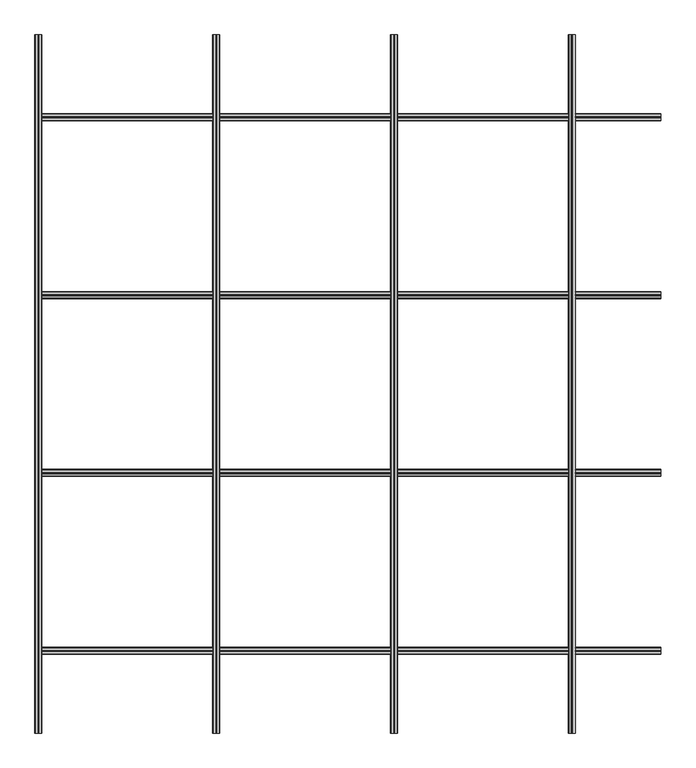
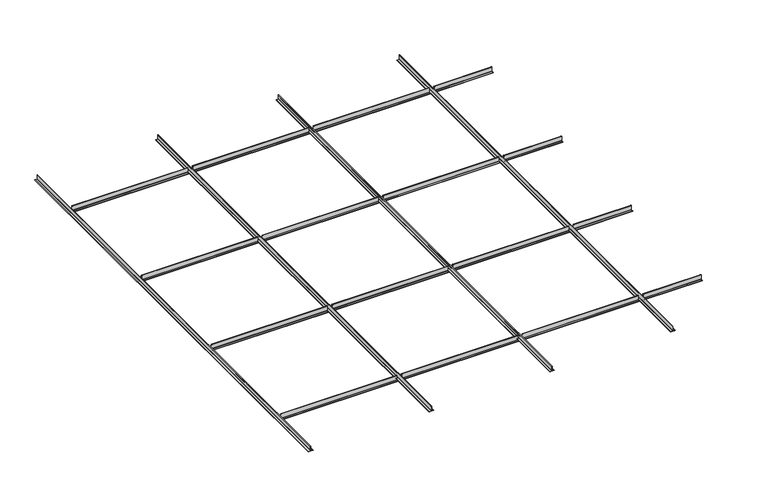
"""IFC4 building model written with IfcOpenShell, lengths in millimetres: proxy geometry, modelo_altus 1.3dm."""

from ifc_helpers import new_model, si_unit, point, frame, frame_2d, origin, place, context, project, spatial, polyline, circle_curve, trimmed, segment, composite_curve, outline, extrude, source, transform, mapped, element, save


def generic_models_ad41e831(model_context):
    return source(origin(), model_context, "Body", "SweptSolid", [
        extrude(outline(composite_curve([segment(trimmed(circle_curve(frame_2d((-263.2816353, -37.5843423)), 0.8), [point((-263.2816353, -38.3843423))], [point((-264.0816353, -37.5843423))], False, "CARTESIAN"), True, "CONTINUOUS"), segment(polyline([(-264.0816353, -37.5843423), (-264.0816353, -37.1843423)]), True, "CONTINUOUS"), segment(trimmed(circle_curve(frame_2d((-263.2816353, -37.1843423)), 0.8), [point((-264.0816353, -37.1843423))], [point((-263.2816353, -36.3843423))], False, "CARTESIAN"), True, "CONTINUOUS"), segment(polyline([(-263.2816353, -36.3843423), (-253.8816353, -36.5088944)]), True, "CONTINUOUS"), segment(trimmed(circle_curve(frame_2d((-253.8816353, -35.7088944)), 0.8), [point((-253.8816353, -36.5088944))], [point((-253.0816353, -35.7088944))], True, "CARTESIAN"), True, "CONTINUOUS"), segment(polyline([(-253.0816353, -35.7088944), (-253.1228217, -13.7843423)]), True, "CONTINUOUS"), segment(trimmed(circle_curve(frame_2d((-252.3228217, -13.7843423)), 0.8), [point((-253.1228217, -13.7843423))], [point((-252.3228217, -12.9843423))], False, "CARTESIAN"), True, "CONTINUOUS"), segment(polyline([(-252.3228217, -12.9843423), (-251.8816353, -12.9843423)]), True, "CONTINUOUS"), segment(trimmed(circle_curve(frame_2d((-251.8816353, -13.7843423)), 0.8), [point((-251.8816353, -12.9843423))], [point((-251.0816353, -13.7843423))], False, "CARTESIAN"), True, "CONTINUOUS"), segment(polyline([(-251.0816353, -13.7843423), (-251.0816353, -35.5843423)]), True, "CONTINUOUS"), segment(trimmed(circle_curve(frame_2d((-250.2816353, -35.5843423)), 0.8), [point((-251.0816353, -35.5843423))], [point((-250.2816353, -36.3843423))], True, "CARTESIAN"), True, "CONTINUOUS"), segment(polyline([(-250.2816353, -36.3843423), (-240.8816353, -36.3967521)]), True, "CONTINUOUS"), segment(trimmed(circle_curve(frame_2d((-240.8816353, -37.1967521)), 0.8), [point((-240.8816353, -36.3967521))], [point((-240.0816353, -37.1967521))], False, "CARTESIAN"), True, "CONTINUOUS"), segment(polyline([(-240.0816353, -37.1967521), (-240.0816353, -37.5843423)]), True, "CONTINUOUS"), segment(trimmed(circle_curve(frame_2d((-240.8816353, -37.5843423)), 0.8), [point((-240.0816353, -37.5843423))], [point((-240.8816353, -38.3843423))], False, "CARTESIAN"), True, "CONTINUOUS"), segment(polyline([(-240.8816353, -38.3843423), (-263.2816353, -38.3843423)]), True, "CONTINUOUS")], self_intersect=False)), frame((-10498.3060212, 0.0, 0.0), z_axis=(1.0, 0.0, 0.0), x_axis=(0.0, 1.0, 0.0)), (0.0, 0.0, 1.0), 586.0),
        extrude(outline(composite_curve([segment(trimmed(circle_curve(frame_2d((346.7183647, -37.5843423)), 0.8), [point((346.7183647, -38.3843423))], [point((345.9183647, -37.5843423))], False, "CARTESIAN"), True, "CONTINUOUS"), segment(polyline([(345.9183647, -37.5843423), (345.9183647, -37.1843423)]), True, "CONTINUOUS"), segment(trimmed(circle_curve(frame_2d((346.7183647, -37.1843423)), 0.8), [point((345.9183647, -37.1843423))], [point((346.7183647, -36.3843423))], False, "CARTESIAN"), True, "CONTINUOUS"), segment(polyline([(346.7183647, -36.3843423), (356.1183647, -36.5088944)]), True, "CONTINUOUS"), segment(trimmed(circle_curve(frame_2d((356.1183647, -35.7088944)), 0.8), [point((356.1183647, -36.5088944))], [point((356.9183647, -35.7088944))], True, "CARTESIAN"), True, "CONTINUOUS"), segment(polyline([(356.9183647, -35.7088944), (356.8771783, -13.7843423)]), True, "CONTINUOUS"), segment(trimmed(circle_curve(frame_2d((357.6771783, -13.7843423)), 0.8), [point((356.8771783, -13.7843423))], [point((357.6771783, -12.9843423))], False, "CARTESIAN"), True, "CONTINUOUS"), segment(polyline([(357.6771783, -12.9843423), (358.1183647, -12.9843423)]), True, "CONTINUOUS"), segment(trimmed(circle_curve(frame_2d((358.1183647, -13.7843423)), 0.8), [point((358.1183647, -12.9843423))], [point((358.9183647, -13.7843423))], False, "CARTESIAN"), True, "CONTINUOUS"), segment(polyline([(358.9183647, -13.7843423), (358.9183647, -35.5843423)]), True, "CONTINUOUS"), segment(trimmed(circle_curve(frame_2d((359.7183647, -35.5843423)), 0.8), [point((358.9183647, -35.5843423))], [point((359.7183647, -36.3843423))], True, "CARTESIAN"), True, "CONTINUOUS"), segment(polyline([(359.7183647, -36.3843423), (369.1183647, -36.3967521)]), True, "CONTINUOUS"), segment(trimmed(circle_curve(frame_2d((369.1183647, -37.1967521)), 0.8), [point((369.1183647, -36.3967521))], [point((369.9183647, -37.1967521))], False, "CARTESIAN"), True, "CONTINUOUS"), segment(polyline([(369.9183647, -37.1967521), (369.9183647, -37.5843423)]), True, "CONTINUOUS"), segment(trimmed(circle_curve(frame_2d((369.1183647, -37.5843423)), 0.8), [point((369.9183647, -37.5843423))], [point((369.1183647, -38.3843423))], False, "CARTESIAN"), True, "CONTINUOUS"), segment(polyline([(369.1183647, -38.3843423), (346.7183647, -38.3843423)]), True, "CONTINUOUS")], self_intersect=False)), frame((-10498.3060212, 0.0, 0.0), z_axis=(1.0, 0.0, 0.0), x_axis=(0.0, 1.0, 0.0)), (0.0, 0.0, 1.0), 586.0),
        extrude(outline(composite_curve([segment(trimmed(circle_curve(frame_2d((956.7183647, -37.5843423)), 0.8), [point((956.7183647, -38.3843423))], [point((955.9183647, -37.5843423))], False, "CARTESIAN"), True, "CONTINUOUS"), segment(polyline([(955.9183647, -37.5843423), (955.9183647, -37.1843423)]), True, "CONTINUOUS"), segment(trimmed(circle_curve(frame_2d((956.7183647, -37.1843423)), 0.8), [point((955.9183647, -37.1843423))], [point((956.7183647, -36.3843423))], False, "CARTESIAN"), True, "CONTINUOUS"), segment(polyline([(956.7183647, -36.3843423), (966.1183647, -36.5088944)]), True, "CONTINUOUS"), segment(trimmed(circle_curve(frame_2d((966.1183647, -35.7088944)), 0.8), [point((966.1183647, -36.5088944))], [point((966.9183647, -35.7088944))], True, "CARTESIAN"), True, "CONTINUOUS"), segment(polyline([(966.9183647, -35.7088944), (966.8771783, -13.7843423)]), True, "CONTINUOUS"), segment(trimmed(circle_curve(frame_2d((967.6771783, -13.7843423)), 0.8), [point((966.8771783, -13.7843423))], [point((967.6771783, -12.9843423))], False, "CARTESIAN"), True, "CONTINUOUS"), segment(polyline([(967.6771783, -12.9843423), (968.1183647, -12.9843423)]), True, "CONTINUOUS"), segment(trimmed(circle_curve(frame_2d((968.1183647, -13.7843423)), 0.8), [point((968.1183647, -12.9843423))], [point((968.9183647, -13.7843423))], False, "CARTESIAN"), True, "CONTINUOUS"), segment(polyline([(968.9183647, -13.7843423), (968.9183647, -35.5843423)]), True, "CONTINUOUS"), segment(trimmed(circle_curve(frame_2d((969.7183647, -35.5843423)), 0.8), [point((968.9183647, -35.5843423))], [point((969.7183647, -36.3843423))], True, "CARTESIAN"), True, "CONTINUOUS"), segment(polyline([(969.7183647, -36.3843423), (979.1183647, -36.3967521)]), True, "CONTINUOUS"), segment(trimmed(circle_curve(frame_2d((979.1183647, -37.1967521)), 0.8), [point((979.1183647, -36.3967521))], [point((979.9183647, -37.1967521))], False, "CARTESIAN"), True, "CONTINUOUS"), segment(polyline([(979.9183647, -37.1967521), (979.9183647, -37.5843423)]), True, "CONTINUOUS"), segment(trimmed(circle_curve(frame_2d((979.1183647, -37.5843423)), 0.8), [point((979.9183647, -37.5843423))], [point((979.1183647, -38.3843423))], False, "CARTESIAN"), True, "CONTINUOUS"), segment(polyline([(979.1183647, -38.3843423), (956.7183647, -38.3843423)]), True, "CONTINUOUS")], self_intersect=False)), frame((-10498.3060212, 0.0, 0.0), z_axis=(1.0, 0.0, 0.0), x_axis=(0.0, 1.0, 0.0)), (0.0, 0.0, 1.0), 586.0),
        extrude(outline(composite_curve([segment(trimmed(circle_curve(frame_2d((1566.7183647, -37.5843423)), 0.8), [point((1566.7183647, -38.3843423))], [point((1565.9183647, -37.5843423))], False, "CARTESIAN"), True, "CONTINUOUS"), segment(polyline([(1565.9183647, -37.5843423), (1565.9183647, -37.1843423)]), True, "CONTINUOUS"), segment(trimmed(circle_curve(frame_2d((1566.7183647, -37.1843423)), 0.8), [point((1565.9183647, -37.1843423))], [point((1566.7183647, -36.3843423))], False, "CARTESIAN"), True, "CONTINUOUS"), segment(polyline([(1566.7183647, -36.3843423), (1576.1183647, -36.5088944)]), True, "CONTINUOUS"), segment(trimmed(circle_curve(frame_2d((1576.1183647, -35.7088944)), 0.8), [point((1576.1183647, -36.5088944))], [point((1576.9183647, -35.7088944))], True, "CARTESIAN"), True, "CONTINUOUS"), segment(polyline([(1576.9183647, -35.7088944), (1576.8771783, -13.7843423)]), True, "CONTINUOUS"), segment(trimmed(circle_curve(frame_2d((1577.6771783, -13.7843423)), 0.8), [point((1576.8771783, -13.7843423))], [point((1577.6771783, -12.9843423))], False, "CARTESIAN"), True, "CONTINUOUS"), segment(polyline([(1577.6771783, -12.9843423), (1578.1183647, -12.9843423)]), True, "CONTINUOUS"), segment(trimmed(circle_curve(frame_2d((1578.1183647, -13.7843423)), 0.8), [point((1578.1183647, -12.9843423))], [point((1578.9183647, -13.7843423))], False, "CARTESIAN"), True, "CONTINUOUS"), segment(polyline([(1578.9183647, -13.7843423), (1578.9183647, -35.5843423)]), True, "CONTINUOUS"), segment(trimmed(circle_curve(frame_2d((1579.7183647, -35.5843423)), 0.8), [point((1578.9183647, -35.5843423))], [point((1579.7183647, -36.3843423))], True, "CARTESIAN"), True, "CONTINUOUS"), segment(polyline([(1579.7183647, -36.3843423), (1589.1183647, -36.3967521)]), True, "CONTINUOUS"), segment(trimmed(circle_curve(frame_2d((1589.1183647, -37.1967521)), 0.8), [point((1589.1183647, -36.3967521))], [point((1589.9183647, -37.1967521))], False, "CARTESIAN"), True, "CONTINUOUS"), segment(polyline([(1589.9183647, -37.1967521), (1589.9183647, -37.5843423)]), True, "CONTINUOUS"), segment(trimmed(circle_curve(frame_2d((1589.1183647, -37.5843423)), 0.8), [point((1589.9183647, -37.5843423))], [point((1589.1183647, -38.3843423))], False, "CARTESIAN"), True, "CONTINUOUS"), segment(polyline([(1589.1183647, -38.3843423), (1566.7183647, -38.3843423)]), True, "CONTINUOUS")], self_intersect=False)), frame((-10498.3060212, 0.0, 0.0), z_axis=(1.0, 0.0, 0.0), x_axis=(0.0, 1.0, 0.0)), (0.0, 0.0, 1.0), 586.0),
        extrude(outline(composite_curve([segment(trimmed(circle_curve(frame_2d((-263.2816353, -37.5843423)), 0.8), [point((-263.2816353, -38.3843423))], [point((-264.0816353, -37.5843423))], False, "CARTESIAN"), True, "CONTINUOUS"), segment(polyline([(-264.0816353, -37.5843423), (-264.0816353, -37.1843423)]), True, "CONTINUOUS"), segment(trimmed(circle_curve(frame_2d((-263.2816353, -37.1843423)), 0.8), [point((-264.0816353, -37.1843423))], [point((-263.2816353, -36.3843423))], False, "CARTESIAN"), True, "CONTINUOUS"), segment(polyline([(-263.2816353, -36.3843423), (-253.8816353, -36.5088944)]), True, "CONTINUOUS"), segment(trimmed(circle_curve(frame_2d((-253.8816353, -35.7088944)), 0.8), [point((-253.8816353, -36.5088944))], [point((-253.0816353, -35.7088944))], True, "CARTESIAN"), True, "CONTINUOUS"), segment(polyline([(-253.0816353, -35.7088944), (-253.1228217, -13.7843423)]), True, "CONTINUOUS"), segment(trimmed(circle_curve(frame_2d((-252.3228217, -13.7843423)), 0.8), [point((-253.1228217, -13.7843423))], [point((-252.3228217, -12.9843423))], False, "CARTESIAN"), True, "CONTINUOUS"), segment(polyline([(-252.3228217, -12.9843423), (-251.8816353, -12.9843423)]), True, "CONTINUOUS"), segment(trimmed(circle_curve(frame_2d((-251.8816353, -13.7843423)), 0.8), [point((-251.8816353, -12.9843423))], [point((-251.0816353, -13.7843423))], False, "CARTESIAN"), True, "CONTINUOUS"), segment(polyline([(-251.0816353, -13.7843423), (-251.0816353, -35.5843423)]), True, "CONTINUOUS"), segment(trimmed(circle_curve(frame_2d((-250.2816353, -35.5843423)), 0.8), [point((-251.0816353, -35.5843423))], [point((-250.2816353, -36.3843423))], True, "CARTESIAN"), True, "CONTINUOUS"), segment(polyline([(-250.2816353, -36.3843423), (-240.8816353, -36.3967521)]), True, "CONTINUOUS"), segment(trimmed(circle_curve(frame_2d((-240.8816353, -37.1967521)), 0.8), [point((-240.8816353, -36.3967521))], [point((-240.0816353, -37.1967521))], False, "CARTESIAN"), True, "CONTINUOUS"), segment(polyline([(-240.0816353, -37.1967521), (-240.0816353, -37.5843423)]), True, "CONTINUOUS"), segment(trimmed(circle_curve(frame_2d((-240.8816353, -37.5843423)), 0.8), [point((-240.0816353, -37.5843423))], [point((-240.8816353, -38.3843423))], False, "CARTESIAN"), True, "CONTINUOUS"), segment(polyline([(-240.8816353, -38.3843423), (-263.2816353, -38.3843423)]), True, "CONTINUOUS")], self_intersect=False)), frame((-11108.3060212, 0.0, 0.0), z_axis=(1.0, 0.0, 0.0), x_axis=(0.0, 1.0, 0.0)), (0.0, 0.0, 1.0), 586.0),
        extrude(outline(composite_curve([segment(trimmed(circle_curve(frame_2d((346.7183647, -37.5843423)), 0.8), [point((346.7183647, -38.3843423))], [point((345.9183647, -37.5843423))], False, "CARTESIAN"), True, "CONTINUOUS"), segment(polyline([(345.9183647, -37.5843423), (345.9183647, -37.1843423)]), True, "CONTINUOUS"), segment(trimmed(circle_curve(frame_2d((346.7183647, -37.1843423)), 0.8), [point((345.9183647, -37.1843423))], [point((346.7183647, -36.3843423))], False, "CARTESIAN"), True, "CONTINUOUS"), segment(polyline([(346.7183647, -36.3843423), (356.1183647, -36.5088944)]), True, "CONTINUOUS"), segment(trimmed(circle_curve(frame_2d((356.1183647, -35.7088944)), 0.8), [point((356.1183647, -36.5088944))], [point((356.9183647, -35.7088944))], True, "CARTESIAN"), True, "CONTINUOUS"), segment(polyline([(356.9183647, -35.7088944), (356.8771783, -13.7843423)]), True, "CONTINUOUS"), segment(trimmed(circle_curve(frame_2d((357.6771783, -13.7843423)), 0.8), [point((356.8771783, -13.7843423))], [point((357.6771783, -12.9843423))], False, "CARTESIAN"), True, "CONTINUOUS"), segment(polyline([(357.6771783, -12.9843423), (358.1183647, -12.9843423)]), True, "CONTINUOUS"), segment(trimmed(circle_curve(frame_2d((358.1183647, -13.7843423)), 0.8), [point((358.1183647, -12.9843423))], [point((358.9183647, -13.7843423))], False, "CARTESIAN"), True, "CONTINUOUS"), segment(polyline([(358.9183647, -13.7843423), (358.9183647, -35.5843423)]), True, "CONTINUOUS"), segment(trimmed(circle_curve(frame_2d((359.7183647, -35.5843423)), 0.8), [point((358.9183647, -35.5843423))], [point((359.7183647, -36.3843423))], True, "CARTESIAN"), True, "CONTINUOUS"), segment(polyline([(359.7183647, -36.3843423), (369.1183647, -36.3967521)]), True, "CONTINUOUS"), segment(trimmed(circle_curve(frame_2d((369.1183647, -37.1967521)), 0.8), [point((369.1183647, -36.3967521))], [point((369.9183647, -37.1967521))], False, "CARTESIAN"), True, "CONTINUOUS"), segment(polyline([(369.9183647, -37.1967521), (369.9183647, -37.5843423)]), True, "CONTINUOUS"), segment(trimmed(circle_curve(frame_2d((369.1183647, -37.5843423)), 0.8), [point((369.9183647, -37.5843423))], [point((369.1183647, -38.3843423))], False, "CARTESIAN"), True, "CONTINUOUS"), segment(polyline([(369.1183647, -38.3843423), (346.7183647, -38.3843423)]), True, "CONTINUOUS")], self_intersect=False)), frame((-11108.3060212, 0.0, 0.0), z_axis=(1.0, 0.0, 0.0), x_axis=(0.0, 1.0, 0.0)), (0.0, 0.0, 1.0), 586.0),
        extrude(outline(composite_curve([segment(trimmed(circle_curve(frame_2d((1566.7183647, -37.5843423)), 0.8), [point((1566.7183647, -38.3843423))], [point((1565.9183647, -37.5843423))], False, "CARTESIAN"), True, "CONTINUOUS"), segment(polyline([(1565.9183647, -37.5843423), (1565.9183647, -37.1843423)]), True, "CONTINUOUS"), segment(trimmed(circle_curve(frame_2d((1566.7183647, -37.1843423)), 0.8), [point((1565.9183647, -37.1843423))], [point((1566.7183647, -36.3843423))], False, "CARTESIAN"), True, "CONTINUOUS"), segment(polyline([(1566.7183647, -36.3843423), (1576.1183647, -36.5088944)]), True, "CONTINUOUS"), segment(trimmed(circle_curve(frame_2d((1576.1183647, -35.7088944)), 0.8), [point((1576.1183647, -36.5088944))], [point((1576.9183647, -35.7088944))], True, "CARTESIAN"), True, "CONTINUOUS"), segment(polyline([(1576.9183647, -35.7088944), (1576.8771783, -13.7843423)]), True, "CONTINUOUS"), segment(trimmed(circle_curve(frame_2d((1577.6771783, -13.7843423)), 0.8), [point((1576.8771783, -13.7843423))], [point((1577.6771783, -12.9843423))], False, "CARTESIAN"), True, "CONTINUOUS"), segment(polyline([(1577.6771783, -12.9843423), (1578.1183647, -12.9843423)]), True, "CONTINUOUS"), segment(trimmed(circle_curve(frame_2d((1578.1183647, -13.7843423)), 0.8), [point((1578.1183647, -12.9843423))], [point((1578.9183647, -13.7843423))], False, "CARTESIAN"), True, "CONTINUOUS"), segment(polyline([(1578.9183647, -13.7843423), (1578.9183647, -35.5843423)]), True, "CONTINUOUS"), segment(trimmed(circle_curve(frame_2d((1579.7183647, -35.5843423)), 0.8), [point((1578.9183647, -35.5843423))], [point((1579.7183647, -36.3843423))], True, "CARTESIAN"), True, "CONTINUOUS"), segment(polyline([(1579.7183647, -36.3843423), (1589.1183647, -36.3967521)]), True, "CONTINUOUS"), segment(trimmed(circle_curve(frame_2d((1589.1183647, -37.1967521)), 0.8), [point((1589.1183647, -36.3967521))], [point((1589.9183647, -37.1967521))], False, "CARTESIAN"), True, "CONTINUOUS"), segment(polyline([(1589.9183647, -37.1967521), (1589.9183647, -37.5843423)]), True, "CONTINUOUS"), segment(trimmed(circle_curve(frame_2d((1589.1183647, -37.5843423)), 0.8), [point((1589.9183647, -37.5843423))], [point((1589.1183647, -38.3843423))], False, "CARTESIAN"), True, "CONTINUOUS"), segment(polyline([(1589.1183647, -38.3843423), (1566.7183647, -38.3843423)]), True, "CONTINUOUS")], self_intersect=False)), frame((-11108.3060212, 0.0, 0.0), z_axis=(1.0, 0.0, 0.0), x_axis=(0.0, 1.0, 0.0)), (0.0, 0.0, 1.0), 586.0),
        extrude(outline(composite_curve([segment(trimmed(circle_curve(frame_2d((1566.7183647, -37.5843423)), 0.8), [point((1566.7183647, -38.3843423))], [point((1565.9183647, -37.5843423))], False, "CARTESIAN"), True, "CONTINUOUS"), segment(polyline([(1565.9183647, -37.5843423), (1565.9183647, -37.1843423)]), True, "CONTINUOUS"), segment(trimmed(circle_curve(frame_2d((1566.7183647, -37.1843423)), 0.8), [point((1565.9183647, -37.1843423))], [point((1566.7183647, -36.3843423))], False, "CARTESIAN"), True, "CONTINUOUS"), segment(polyline([(1566.7183647, -36.3843423), (1576.1183647, -36.5088944)]), True, "CONTINUOUS"), segment(trimmed(circle_curve(frame_2d((1576.1183647, -35.7088944)), 0.8), [point((1576.1183647, -36.5088944))], [point((1576.9183647, -35.7088944))], True, "CARTESIAN"), True, "CONTINUOUS"), segment(polyline([(1576.9183647, -35.7088944), (1576.8771783, -13.7843423)]), True, "CONTINUOUS"), segment(trimmed(circle_curve(frame_2d((1577.6771783, -13.7843423)), 0.8), [point((1576.8771783, -13.7843423))], [point((1577.6771783, -12.9843423))], False, "CARTESIAN"), True, "CONTINUOUS"), segment(polyline([(1577.6771783, -12.9843423), (1578.1183647, -12.9843423)]), True, "CONTINUOUS"), segment(trimmed(circle_curve(frame_2d((1578.1183647, -13.7843423)), 0.8), [point((1578.1183647, -12.9843423))], [point((1578.9183647, -13.7843423))], False, "CARTESIAN"), True, "CONTINUOUS"), segment(polyline([(1578.9183647, -13.7843423), (1578.9183647, -35.5843423)]), True, "CONTINUOUS"), segment(trimmed(circle_curve(frame_2d((1579.7183647, -35.5843423)), 0.8), [point((1578.9183647, -35.5843423))], [point((1579.7183647, -36.3843423))], True, "CARTESIAN"), True, "CONTINUOUS"), segment(polyline([(1579.7183647, -36.3843423), (1589.1183647, -36.3967521)]), True, "CONTINUOUS"), segment(trimmed(circle_curve(frame_2d((1589.1183647, -37.1967521)), 0.8), [point((1589.1183647, -36.3967521))], [point((1589.9183647, -37.1967521))], False, "CARTESIAN"), True, "CONTINUOUS"), segment(polyline([(1589.9183647, -37.1967521), (1589.9183647, -37.5843423)]), True, "CONTINUOUS"), segment(trimmed(circle_curve(frame_2d((1589.1183647, -37.5843423)), 0.8), [point((1589.9183647, -37.5843423))], [point((1589.1183647, -38.3843423))], False, "CARTESIAN"), True, "CONTINUOUS"), segment(polyline([(1589.1183647, -38.3843423), (1566.7183647, -38.3843423)]), True, "CONTINUOUS")], self_intersect=False)), frame((-11718.3060212, 0.0, 0.0), z_axis=(1.0, 0.0, 0.0), x_axis=(0.0, 1.0, 0.0)), (0.0, 0.0, 1.0), 586.0),
        extrude(outline(composite_curve([segment(trimmed(circle_curve(frame_2d((956.7183647, -37.5843423)), 0.8), [point((956.7183647, -38.3843423))], [point((955.9183647, -37.5843423))], False, "CARTESIAN"), True, "CONTINUOUS"), segment(polyline([(955.9183647, -37.5843423), (955.9183647, -37.1843423)]), True, "CONTINUOUS"), segment(trimmed(circle_curve(frame_2d((956.7183647, -37.1843423)), 0.8), [point((955.9183647, -37.1843423))], [point((956.7183647, -36.3843423))], False, "CARTESIAN"), True, "CONTINUOUS"), segment(polyline([(956.7183647, -36.3843423), (966.1183647, -36.5088944)]), True, "CONTINUOUS"), segment(trimmed(circle_curve(frame_2d((966.1183647, -35.7088944)), 0.8), [point((966.1183647, -36.5088944))], [point((966.9183647, -35.7088944))], True, "CARTESIAN"), True, "CONTINUOUS"), segment(polyline([(966.9183647, -35.7088944), (966.8771783, -13.7843423)]), True, "CONTINUOUS"), segment(trimmed(circle_curve(frame_2d((967.6771783, -13.7843423)), 0.8), [point((966.8771783, -13.7843423))], [point((967.6771783, -12.9843423))], False, "CARTESIAN"), True, "CONTINUOUS"), segment(polyline([(967.6771783, -12.9843423), (968.1183647, -12.9843423)]), True, "CONTINUOUS"), segment(trimmed(circle_curve(frame_2d((968.1183647, -13.7843423)), 0.8), [point((968.1183647, -12.9843423))], [point((968.9183647, -13.7843423))], False, "CARTESIAN"), True, "CONTINUOUS"), segment(polyline([(968.9183647, -13.7843423), (968.9183647, -35.5843423)]), True, "CONTINUOUS"), segment(trimmed(circle_curve(frame_2d((969.7183647, -35.5843423)), 0.8), [point((968.9183647, -35.5843423))], [point((969.7183647, -36.3843423))], True, "CARTESIAN"), True, "CONTINUOUS"), segment(polyline([(969.7183647, -36.3843423), (979.1183647, -36.3967521)]), True, "CONTINUOUS"), segment(trimmed(circle_curve(frame_2d((979.1183647, -37.1967521)), 0.8), [point((979.1183647, -36.3967521))], [point((979.9183647, -37.1967521))], False, "CARTESIAN"), True, "CONTINUOUS"), segment(polyline([(979.9183647, -37.1967521), (979.9183647, -37.5843423)]), True, "CONTINUOUS"), segment(trimmed(circle_curve(frame_2d((979.1183647, -37.5843423)), 0.8), [point((979.9183647, -37.5843423))], [point((979.1183647, -38.3843423))], False, "CARTESIAN"), True, "CONTINUOUS"), segment(polyline([(979.1183647, -38.3843423), (956.7183647, -38.3843423)]), True, "CONTINUOUS")], self_intersect=False)), frame((-11718.3060212, 0.0, 0.0), z_axis=(1.0, 0.0, 0.0), x_axis=(0.0, 1.0, 0.0)), (0.0, 0.0, 1.0), 586.0),
        extrude(outline(composite_curve([segment(trimmed(circle_curve(frame_2d((346.7183647, -37.5843423)), 0.8), [point((346.7183647, -38.3843423))], [point((345.9183647, -37.5843423))], False, "CARTESIAN"), True, "CONTINUOUS"), segment(polyline([(345.9183647, -37.5843423), (345.9183647, -37.1843423)]), True, "CONTINUOUS"), segment(trimmed(circle_curve(frame_2d((346.7183647, -37.1843423)), 0.8), [point((345.9183647, -37.1843423))], [point((346.7183647, -36.3843423))], False, "CARTESIAN"), True, "CONTINUOUS"), segment(polyline([(346.7183647, -36.3843423), (356.1183647, -36.5088944)]), True, "CONTINUOUS"), segment(trimmed(circle_curve(frame_2d((356.1183647, -35.7088944)), 0.8), [point((356.1183647, -36.5088944))], [point((356.9183647, -35.7088944))], True, "CARTESIAN"), True, "CONTINUOUS"), segment(polyline([(356.9183647, -35.7088944), (356.8771783, -13.7843423)]), True, "CONTINUOUS"), segment(trimmed(circle_curve(frame_2d((357.6771783, -13.7843423)), 0.8), [point((356.8771783, -13.7843423))], [point((357.6771783, -12.9843423))], False, "CARTESIAN"), True, "CONTINUOUS"), segment(polyline([(357.6771783, -12.9843423), (358.1183647, -12.9843423)]), True, "CONTINUOUS"), segment(trimmed(circle_curve(frame_2d((358.1183647, -13.7843423)), 0.8), [point((358.1183647, -12.9843423))], [point((358.9183647, -13.7843423))], False, "CARTESIAN"), True, "CONTINUOUS"), segment(polyline([(358.9183647, -13.7843423), (358.9183647, -35.5843423)]), True, "CONTINUOUS"), segment(trimmed(circle_curve(frame_2d((359.7183647, -35.5843423)), 0.8), [point((358.9183647, -35.5843423))], [point((359.7183647, -36.3843423))], True, "CARTESIAN"), True, "CONTINUOUS"), segment(polyline([(359.7183647, -36.3843423), (369.1183647, -36.3967521)]), True, "CONTINUOUS"), segment(trimmed(circle_curve(frame_2d((369.1183647, -37.1967521)), 0.8), [point((369.1183647, -36.3967521))], [point((369.9183647, -37.1967521))], False, "CARTESIAN"), True, "CONTINUOUS"), segment(polyline([(369.9183647, -37.1967521), (369.9183647, -37.5843423)]), True, "CONTINUOUS"), segment(trimmed(circle_curve(frame_2d((369.1183647, -37.5843423)), 0.8), [point((369.9183647, -37.5843423))], [point((369.1183647, -38.3843423))], False, "CARTESIAN"), True, "CONTINUOUS"), segment(polyline([(369.1183647, -38.3843423), (346.7183647, -38.3843423)]), True, "CONTINUOUS")], self_intersect=False)), frame((-11718.3060212, 0.0, 0.0), z_axis=(1.0, 0.0, 0.0), x_axis=(0.0, 1.0, 0.0)), (0.0, 0.0, 1.0), 586.0),
        extrude(outline(composite_curve([segment(trimmed(circle_curve(frame_2d((-263.2816353, -37.5843423)), 0.8), [point((-263.2816353, -38.3843423))], [point((-264.0816353, -37.5843423))], False, "CARTESIAN"), True, "CONTINUOUS"), segment(polyline([(-264.0816353, -37.5843423), (-264.0816353, -37.1843423)]), True, "CONTINUOUS"), segment(trimmed(circle_curve(frame_2d((-263.2816353, -37.1843423)), 0.8), [point((-264.0816353, -37.1843423))], [point((-263.2816353, -36.3843423))], False, "CARTESIAN"), True, "CONTINUOUS"), segment(polyline([(-263.2816353, -36.3843423), (-253.8816353, -36.5088944)]), True, "CONTINUOUS"), segment(trimmed(circle_curve(frame_2d((-253.8816353, -35.7088944)), 0.8), [point((-253.8816353, -36.5088944))], [point((-253.0816353, -35.7088944))], True, "CARTESIAN"), True, "CONTINUOUS"), segment(polyline([(-253.0816353, -35.7088944), (-253.1228217, -13.7843423)]), True, "CONTINUOUS"), segment(trimmed(circle_curve(frame_2d((-252.3228217, -13.7843423)), 0.8), [point((-253.1228217, -13.7843423))], [point((-252.3228217, -12.9843423))], False, "CARTESIAN"), True, "CONTINUOUS"), segment(polyline([(-252.3228217, -12.9843423), (-251.8816353, -12.9843423)]), True, "CONTINUOUS"), segment(trimmed(circle_curve(frame_2d((-251.8816353, -13.7843423)), 0.8), [point((-251.8816353, -12.9843423))], [point((-251.0816353, -13.7843423))], False, "CARTESIAN"), True, "CONTINUOUS"), segment(polyline([(-251.0816353, -13.7843423), (-251.0816353, -35.5843423)]), True, "CONTINUOUS"), segment(trimmed(circle_curve(frame_2d((-250.2816353, -35.5843423)), 0.8), [point((-251.0816353, -35.5843423))], [point((-250.2816353, -36.3843423))], True, "CARTESIAN"), True, "CONTINUOUS"), segment(polyline([(-250.2816353, -36.3843423), (-240.8816353, -36.3967521)]), True, "CONTINUOUS"), segment(trimmed(circle_curve(frame_2d((-240.8816353, -37.1967521)), 0.8), [point((-240.8816353, -36.3967521))], [point((-240.0816353, -37.1967521))], False, "CARTESIAN"), True, "CONTINUOUS"), segment(polyline([(-240.0816353, -37.1967521), (-240.0816353, -37.5843423)]), True, "CONTINUOUS"), segment(trimmed(circle_curve(frame_2d((-240.8816353, -37.5843423)), 0.8), [point((-240.0816353, -37.5843423))], [point((-240.8816353, -38.3843423))], False, "CARTESIAN"), True, "CONTINUOUS"), segment(polyline([(-240.8816353, -38.3843423), (-263.2816353, -38.3843423)]), True, "CONTINUOUS")], self_intersect=False)), frame((-11718.3060212, 0.0, 0.0), z_axis=(1.0, 0.0, 0.0), x_axis=(0.0, 1.0, 0.0)), (0.0, 0.0, 1.0), 586.0),
        extrude(outline(composite_curve([segment(trimmed(circle_curve(frame_2d((956.7183647, -37.5843423)), 0.8), [point((956.7183647, -38.3843423))], [point((955.9183647, -37.5843423))], False, "CARTESIAN"), True, "CONTINUOUS"), segment(polyline([(955.9183647, -37.5843423), (955.9183647, -37.1843423)]), True, "CONTINUOUS"), segment(trimmed(circle_curve(frame_2d((956.7183647, -37.1843423)), 0.8), [point((955.9183647, -37.1843423))], [point((956.7183647, -36.3843423))], False, "CARTESIAN"), True, "CONTINUOUS"), segment(polyline([(956.7183647, -36.3843423), (966.1183647, -36.5088944)]), True, "CONTINUOUS"), segment(trimmed(circle_curve(frame_2d((966.1183647, -35.7088944)), 0.8), [point((966.1183647, -36.5088944))], [point((966.9183647, -35.7088944))], True, "CARTESIAN"), True, "CONTINUOUS"), segment(polyline([(966.9183647, -35.7088944), (966.8771783, -13.7843423)]), True, "CONTINUOUS"), segment(trimmed(circle_curve(frame_2d((967.6771783, -13.7843423)), 0.8), [point((966.8771783, -13.7843423))], [point((967.6771783, -12.9843423))], False, "CARTESIAN"), True, "CONTINUOUS"), segment(polyline([(967.6771783, -12.9843423), (968.1183647, -12.9843423)]), True, "CONTINUOUS"), segment(trimmed(circle_curve(frame_2d((968.1183647, -13.7843423)), 0.8), [point((968.1183647, -12.9843423))], [point((968.9183647, -13.7843423))], False, "CARTESIAN"), True, "CONTINUOUS"), segment(polyline([(968.9183647, -13.7843423), (968.9183647, -35.5843423)]), True, "CONTINUOUS"), segment(trimmed(circle_curve(frame_2d((969.7183647, -35.5843423)), 0.8), [point((968.9183647, -35.5843423))], [point((969.7183647, -36.3843423))], True, "CARTESIAN"), True, "CONTINUOUS"), segment(polyline([(969.7183647, -36.3843423), (979.1183647, -36.3967521)]), True, "CONTINUOUS"), segment(trimmed(circle_curve(frame_2d((979.1183647, -37.1967521)), 0.8), [point((979.1183647, -36.3967521))], [point((979.9183647, -37.1967521))], False, "CARTESIAN"), True, "CONTINUOUS"), segment(polyline([(979.9183647, -37.1967521), (979.9183647, -37.5843423)]), True, "CONTINUOUS"), segment(trimmed(circle_curve(frame_2d((979.1183647, -37.5843423)), 0.8), [point((979.9183647, -37.5843423))], [point((979.1183647, -38.3843423))], False, "CARTESIAN"), True, "CONTINUOUS"), segment(polyline([(979.1183647, -38.3843423), (956.7183647, -38.3843423)]), True, "CONTINUOUS")], self_intersect=False)), frame((-11108.3060212, 0.0, 0.0), z_axis=(1.0, 0.0, 0.0), x_axis=(0.0, 1.0, 0.0)), (0.0, 0.0, 1.0), 586.0),
        extrude(outline(composite_curve([segment(polyline([(0.0, 0.0), (0.0, 22.4)]), True, "CONTINUOUS"), segment(trimmed(circle_curve(frame_2d((0.8, 22.4)), 0.8), [point((0.0, 22.4))], [point((0.8, 23.2))], False, "CARTESIAN"), True, "CONTINUOUS"), segment(polyline([(0.8, 23.2), (1.1875902, 23.2)]), True, "CONTINUOUS"), segment(trimmed(circle_curve(frame_2d((1.1875902, 22.4)), 0.8), [point((1.1875902, 23.2))], [point((1.9875902, 22.4))], False, "CARTESIAN"), True, "CONTINUOUS"), segment(polyline([(1.9875902, 22.4), (2.0, 13.0)]), True, "CONTINUOUS"), segment(trimmed(circle_curve(frame_2d((2.8, 13.0)), 0.8), [point((2.0, 13.0))], [point((2.8, 12.2))], True, "CARTESIAN"), True, "CONTINUOUS"), segment(polyline([(2.8, 12.2), (24.6, 12.2)]), True, "CONTINUOUS"), segment(trimmed(circle_curve(frame_2d((24.6, 11.4)), 0.8), [point((24.6, 12.2))], [point((25.4, 11.4))], False, "CARTESIAN"), True, "CONTINUOUS"), segment(polyline([(25.4, 11.4), (25.4, 10.9588136)]), True, "CONTINUOUS"), segment(trimmed(circle_curve(frame_2d((24.6, 10.9588136)), 0.8), [point((25.4, 10.9588136))], [point((24.6, 10.1588136))], False, "CARTESIAN"), True, "CONTINUOUS"), segment(polyline([(24.6, 10.1588136), (2.675448, 10.2)]), True, "CONTINUOUS"), segment(trimmed(circle_curve(frame_2d((2.675448, 9.4)), 0.8), [point((2.675448, 10.2))], [point((1.875448, 9.4))], True, "CARTESIAN"), True, "CONTINUOUS"), segment(polyline([(1.875448, 9.4), (2.0, 0.0)]), True, "CONTINUOUS"), segment(trimmed(circle_curve(frame_2d((1.2, 0.0)), 0.8), [point((2.0, 0.0))], [point((1.2, -0.8))], False, "CARTESIAN"), True, "CONTINUOUS"), segment(polyline([(1.2, -0.8), (0.8, -0.8)]), True, "CONTINUOUS"), segment(trimmed(circle_curve(frame_2d((0.8, 0.0)), 0.8), [point((0.8, -0.8))], [point((0.0, 0.0))], False, "CARTESIAN"), True, "CONTINUOUS")], self_intersect=False)), frame((-10499.1060212, 1859.5424582, -38.3879518), z_axis=(0.0, -0.9999999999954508, 3.0163753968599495e-06), x_axis=(0.0, 3.0163753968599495e-06, 0.9999999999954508)), (0.0, 0.0, 1.0), 2393.2481777),
        extrude(outline(composite_curve([segment(polyline([(0.0, 0.0), (0.0, 22.4)]), True, "CONTINUOUS"), segment(trimmed(circle_curve(frame_2d((0.8, 22.4)), 0.8), [point((0.0, 22.4))], [point((0.8, 23.2))], False, "CARTESIAN"), True, "CONTINUOUS"), segment(polyline([(0.8, 23.2), (1.1875902, 23.2)]), True, "CONTINUOUS"), segment(trimmed(circle_curve(frame_2d((1.1875902, 22.4)), 0.8), [point((1.1875902, 23.2))], [point((1.9875902, 22.4))], False, "CARTESIAN"), True, "CONTINUOUS"), segment(polyline([(1.9875902, 22.4), (2.0, 13.0)]), True, "CONTINUOUS"), segment(trimmed(circle_curve(frame_2d((2.8, 13.0)), 0.8), [point((2.0, 13.0))], [point((2.8, 12.2))], True, "CARTESIAN"), True, "CONTINUOUS"), segment(polyline([(2.8, 12.2), (24.6, 12.2)]), True, "CONTINUOUS"), segment(trimmed(circle_curve(frame_2d((24.6, 11.4)), 0.8), [point((24.6, 12.2))], [point((25.4, 11.4))], False, "CARTESIAN"), True, "CONTINUOUS"), segment(polyline([(25.4, 11.4), (25.4, 10.9588136)]), True, "CONTINUOUS"), segment(trimmed(circle_curve(frame_2d((24.6, 10.9588136)), 0.8), [point((25.4, 10.9588136))], [point((24.6, 10.1588136))], False, "CARTESIAN"), True, "CONTINUOUS"), segment(polyline([(24.6, 10.1588136), (2.675448, 10.2)]), True, "CONTINUOUS"), segment(trimmed(circle_curve(frame_2d((2.675448, 9.4)), 0.8), [point((2.675448, 10.2))], [point((1.875448, 9.4))], True, "CARTESIAN"), True, "CONTINUOUS"), segment(polyline([(1.875448, 9.4), (2.0, 0.0)]), True, "CONTINUOUS"), segment(trimmed(circle_curve(frame_2d((1.2, 0.0)), 0.8), [point((2.0, 0.0))], [point((1.2, -0.8))], False, "CARTESIAN"), True, "CONTINUOUS"), segment(polyline([(1.2, -0.8), (0.8, -0.8)]), True, "CONTINUOUS"), segment(trimmed(circle_curve(frame_2d((0.8, 0.0)), 0.8), [point((0.8, -0.8))], [point((0.0, 0.0))], False, "CARTESIAN"), True, "CONTINUOUS")], self_intersect=False)), frame((-11109.1060212, 1859.5424582, -38.3879518), z_axis=(0.0, -0.9999999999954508, 3.0163753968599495e-06), x_axis=(0.0, 3.0163753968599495e-06, 0.9999999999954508)), (0.0, 0.0, 1.0), 2393.2481777),
        extrude(outline(composite_curve([segment(trimmed(circle_curve(frame_2d((-37.5843423, -9889.1060212)), 0.8), [point((-38.3843423, -9889.1060212))], [point((-37.5843423, -9888.3060212))], False, "CARTESIAN"), True, "CONTINUOUS"), segment(polyline([(-37.5843423, -9888.3060212), (-37.1843423, -9888.3060212)]), True, "CONTINUOUS"), segment(trimmed(circle_curve(frame_2d((-37.1843423, -9889.1060212)), 0.8), [point((-37.1843423, -9888.3060212))], [point((-36.3843423, -9889.1060212))], False, "CARTESIAN"), True, "CONTINUOUS"), segment(polyline([(-36.3843423, -9889.1060212), (-36.5088944, -9898.5060212)]), True, "CONTINUOUS"), segment(trimmed(circle_curve(frame_2d((-35.7088944, -9898.5060212)), 0.8), [point((-36.5088944, -9898.5060212))], [point((-35.7088944, -9899.3060212))], True, "CARTESIAN"), True, "CONTINUOUS"), segment(polyline([(-35.7088944, -9899.3060212), (-13.7843423, -9899.2648348)]), True, "CONTINUOUS"), segment(trimmed(circle_curve(frame_2d((-13.7843423, -9900.0648348)), 0.8), [point((-13.7843423, -9899.2648348))], [point((-12.9843423, -9900.0648348))], False, "CARTESIAN"), True, "CONTINUOUS"), segment(polyline([(-12.9843423, -9900.0648348), (-12.9843423, -9900.5060212)]), True, "CONTINUOUS"), segment(trimmed(circle_curve(frame_2d((-13.7843423, -9900.5060212)), 0.8), [point((-12.9843423, -9900.5060212))], [point((-13.7843423, -9901.3060212))], False, "CARTESIAN"), True, "CONTINUOUS"), segment(polyline([(-13.7843423, -9901.3060212), (-35.5843423, -9901.3060212)]), True, "CONTINUOUS"), segment(trimmed(circle_curve(frame_2d((-35.5843423, -9902.1060212)), 0.8), [point((-35.5843423, -9901.3060212))], [point((-36.3843423, -9902.1060212))], True, "CARTESIAN"), True, "CONTINUOUS"), segment(polyline([(-36.3843423, -9902.1060212), (-36.3967521, -9911.5060212)]), True, "CONTINUOUS"), segment(trimmed(circle_curve(frame_2d((-37.1967521, -9911.5060212)), 0.8), [point((-36.3967521, -9911.5060212))], [point((-37.1967521, -9912.3060212))], False, "CARTESIAN"), True, "CONTINUOUS"), segment(polyline([(-37.1967521, -9912.3060212), (-37.5843423, -9912.3060212)]), True, "CONTINUOUS"), segment(trimmed(circle_curve(frame_2d((-37.5843423, -9911.5060212)), 0.8), [point((-37.5843423, -9912.3060212))], [point((-38.3843423, -9911.5060212))], False, "CARTESIAN"), True, "CONTINUOUS"), segment(polyline([(-38.3843423, -9911.5060212), (-38.3843423, -9889.1060212)]), True, "CONTINUOUS")], self_intersect=False)), frame((0.0, -533.7057324, 0.0), z_axis=(0.0, 1.0, 0.0), x_axis=(0.0, 0.0, 1.0)), (0.0, 0.0, 1.0), 2393.2481942),
        extrude(outline(composite_curve([segment(trimmed(circle_curve(frame_2d((-37.5843423, -11719.1060212)), 0.8), [point((-38.3843423, -11719.1060212))], [point((-37.5843423, -11718.3060212))], False, "CARTESIAN"), True, "CONTINUOUS"), segment(polyline([(-37.5843423, -11718.3060212), (-37.1843423, -11718.3060212)]), True, "CONTINUOUS"), segment(trimmed(circle_curve(frame_2d((-37.1843423, -11719.1060212)), 0.8), [point((-37.1843423, -11718.3060212))], [point((-36.3843423, -11719.1060212))], False, "CARTESIAN"), True, "CONTINUOUS"), segment(polyline([(-36.3843423, -11719.1060212), (-36.5088944, -11728.5060212)]), True, "CONTINUOUS"), segment(trimmed(circle_curve(frame_2d((-35.7088944, -11728.5060212)), 0.8), [point((-36.5088944, -11728.5060212))], [point((-35.7088944, -11729.3060212))], True, "CARTESIAN"), True, "CONTINUOUS"), segment(polyline([(-35.7088944, -11729.3060212), (-13.7843423, -11729.2648348)]), True, "CONTINUOUS"), segment(trimmed(circle_curve(frame_2d((-13.7843423, -11730.0648348)), 0.8), [point((-13.7843423, -11729.2648348))], [point((-12.9843423, -11730.0648348))], False, "CARTESIAN"), True, "CONTINUOUS"), segment(polyline([(-12.9843423, -11730.0648348), (-12.9843423, -11730.5060212)]), True, "CONTINUOUS"), segment(trimmed(circle_curve(frame_2d((-13.7843423, -11730.5060212)), 0.8), [point((-12.9843423, -11730.5060212))], [point((-13.7843423, -11731.3060212))], False, "CARTESIAN"), True, "CONTINUOUS"), segment(polyline([(-13.7843423, -11731.3060212), (-35.5843423, -11731.3060212)]), True, "CONTINUOUS"), segment(trimmed(circle_curve(frame_2d((-35.5843423, -11732.1060212)), 0.8), [point((-35.5843423, -11731.3060212))], [point((-36.3843423, -11732.1060212))], True, "CARTESIAN"), True, "CONTINUOUS"), segment(polyline([(-36.3843423, -11732.1060212), (-36.3967521, -11741.5060212)]), True, "CONTINUOUS"), segment(trimmed(circle_curve(frame_2d((-37.1967521, -11741.5060212)), 0.8), [point((-36.3967521, -11741.5060212))], [point((-37.1967521, -11742.3060212))], False, "CARTESIAN"), True, "CONTINUOUS"), segment(polyline([(-37.1967521, -11742.3060212), (-37.5843423, -11742.3060212)]), True, "CONTINUOUS"), segment(trimmed(circle_curve(frame_2d((-37.5843423, -11741.5060212)), 0.8), [point((-37.5843423, -11742.3060212))], [point((-38.3843423, -11741.5060212))], False, "CARTESIAN"), True, "CONTINUOUS"), segment(polyline([(-38.3843423, -11741.5060212), (-38.3843423, -11719.1060212)]), True, "CONTINUOUS")], self_intersect=False)), frame((0.0, -533.7057324, 0.0), z_axis=(0.0, 1.0, 0.0), x_axis=(0.0, 0.0, 1.0)), (0.0, 0.0, 1.0), 2393.2481942),
        extrude(outline(composite_curve([segment(trimmed(circle_curve(frame_2d((-263.2816353, -37.5843423)), 0.8), [point((-263.2816353, -38.3843423))], [point((-264.0816353, -37.5843423))], False, "CARTESIAN"), True, "CONTINUOUS"), segment(polyline([(-264.0816353, -37.5843423), (-264.0816353, -37.1843423)]), True, "CONTINUOUS"), segment(trimmed(circle_curve(frame_2d((-263.2816353, -37.1843423)), 0.8), [point((-264.0816353, -37.1843423))], [point((-263.2816353, -36.3843423))], False, "CARTESIAN"), True, "CONTINUOUS"), segment(polyline([(-263.2816353, -36.3843423), (-253.8816353, -36.5088944)]), True, "CONTINUOUS"), segment(trimmed(circle_curve(frame_2d((-253.8816353, -35.7088944)), 0.8), [point((-253.8816353, -36.5088944))], [point((-253.0816353, -35.7088944))], True, "CARTESIAN"), True, "CONTINUOUS"), segment(polyline([(-253.0816353, -35.7088944), (-253.1228217, -13.7843423)]), True, "CONTINUOUS"), segment(trimmed(circle_curve(frame_2d((-252.3228217, -13.7843423)), 0.8), [point((-253.1228217, -13.7843423))], [point((-252.3228217, -12.9843423))], False, "CARTESIAN"), True, "CONTINUOUS"), segment(polyline([(-252.3228217, -12.9843423), (-251.8816353, -12.9843423)]), True, "CONTINUOUS"), segment(trimmed(circle_curve(frame_2d((-251.8816353, -13.7843423)), 0.8), [point((-251.8816353, -12.9843423))], [point((-251.0816353, -13.7843423))], False, "CARTESIAN"), True, "CONTINUOUS"), segment(polyline([(-251.0816353, -13.7843423), (-251.0816353, -35.5843423)]), True, "CONTINUOUS"), segment(trimmed(circle_curve(frame_2d((-250.2816353, -35.5843423)), 0.8), [point((-251.0816353, -35.5843423))], [point((-250.2816353, -36.3843423))], True, "CARTESIAN"), True, "CONTINUOUS"), segment(polyline([(-250.2816353, -36.3843423), (-240.8816353, -36.3967521)]), True, "CONTINUOUS"), segment(trimmed(circle_curve(frame_2d((-240.8816353, -37.1967521)), 0.8), [point((-240.8816353, -36.3967521))], [point((-240.0816353, -37.1967521))], False, "CARTESIAN"), True, "CONTINUOUS"), segment(polyline([(-240.0816353, -37.1967521), (-240.0816353, -37.5843423)]), True, "CONTINUOUS"), segment(trimmed(circle_curve(frame_2d((-240.8816353, -37.5843423)), 0.8), [point((-240.0816353, -37.5843423))], [point((-240.8816353, -38.3843423))], False, "CARTESIAN"), True, "CONTINUOUS"), segment(polyline([(-240.8816353, -38.3843423), (-263.2816353, -38.3843423)]), True, "CONTINUOUS")], self_intersect=False)), frame((-9888.3060212, 0.0, 0.0), z_axis=(1.0, 0.0, 0.0), x_axis=(0.0, 1.0, 0.0)), (0.0, 0.0, 1.0), 293.0),
        extrude(outline(composite_curve([segment(trimmed(circle_curve(frame_2d((346.7183647, -37.5843423)), 0.8), [point((346.7183647, -38.3843423))], [point((345.9183647, -37.5843423))], False, "CARTESIAN"), True, "CONTINUOUS"), segment(polyline([(345.9183647, -37.5843423), (345.9183647, -37.1843423)]), True, "CONTINUOUS"), segment(trimmed(circle_curve(frame_2d((346.7183647, -37.1843423)), 0.8), [point((345.9183647, -37.1843423))], [point((346.7183647, -36.3843423))], False, "CARTESIAN"), True, "CONTINUOUS"), segment(polyline([(346.7183647, -36.3843423), (356.1183647, -36.5088944)]), True, "CONTINUOUS"), segment(trimmed(circle_curve(frame_2d((356.1183647, -35.7088944)), 0.8), [point((356.1183647, -36.5088944))], [point((356.9183647, -35.7088944))], True, "CARTESIAN"), True, "CONTINUOUS"), segment(polyline([(356.9183647, -35.7088944), (356.8771783, -13.7843423)]), True, "CONTINUOUS"), segment(trimmed(circle_curve(frame_2d((357.6771783, -13.7843423)), 0.8), [point((356.8771783, -13.7843423))], [point((357.6771783, -12.9843423))], False, "CARTESIAN"), True, "CONTINUOUS"), segment(polyline([(357.6771783, -12.9843423), (358.1183647, -12.9843423)]), True, "CONTINUOUS"), segment(trimmed(circle_curve(frame_2d((358.1183647, -13.7843423)), 0.8), [point((358.1183647, -12.9843423))], [point((358.9183647, -13.7843423))], False, "CARTESIAN"), True, "CONTINUOUS"), segment(polyline([(358.9183647, -13.7843423), (358.9183647, -35.5843423)]), True, "CONTINUOUS"), segment(trimmed(circle_curve(frame_2d((359.7183647, -35.5843423)), 0.8), [point((358.9183647, -35.5843423))], [point((359.7183647, -36.3843423))], True, "CARTESIAN"), True, "CONTINUOUS"), segment(polyline([(359.7183647, -36.3843423), (369.1183647, -36.3967521)]), True, "CONTINUOUS"), segment(trimmed(circle_curve(frame_2d((369.1183647, -37.1967521)), 0.8), [point((369.1183647, -36.3967521))], [point((369.9183647, -37.1967521))], False, "CARTESIAN"), True, "CONTINUOUS"), segment(polyline([(369.9183647, -37.1967521), (369.9183647, -37.5843423)]), True, "CONTINUOUS"), segment(trimmed(circle_curve(frame_2d((369.1183647, -37.5843423)), 0.8), [point((369.9183647, -37.5843423))], [point((369.1183647, -38.3843423))], False, "CARTESIAN"), True, "CONTINUOUS"), segment(polyline([(369.1183647, -38.3843423), (346.7183647, -38.3843423)]), True, "CONTINUOUS")], self_intersect=False)), frame((-9888.3060212, 0.0, 0.0), z_axis=(1.0, 0.0, 0.0), x_axis=(0.0, 1.0, 0.0)), (0.0, 0.0, 1.0), 293.0),
        extrude(outline(composite_curve([segment(trimmed(circle_curve(frame_2d((956.7183647, -37.5843423)), 0.8), [point((956.7183647, -38.3843423))], [point((955.9183647, -37.5843423))], False, "CARTESIAN"), True, "CONTINUOUS"), segment(polyline([(955.9183647, -37.5843423), (955.9183647, -37.1843423)]), True, "CONTINUOUS"), segment(trimmed(circle_curve(frame_2d((956.7183647, -37.1843423)), 0.8), [point((955.9183647, -37.1843423))], [point((956.7183647, -36.3843423))], False, "CARTESIAN"), True, "CONTINUOUS"), segment(polyline([(956.7183647, -36.3843423), (966.1183647, -36.5088944)]), True, "CONTINUOUS"), segment(trimmed(circle_curve(frame_2d((966.1183647, -35.7088944)), 0.8), [point((966.1183647, -36.5088944))], [point((966.9183647, -35.7088944))], True, "CARTESIAN"), True, "CONTINUOUS"), segment(polyline([(966.9183647, -35.7088944), (966.8771783, -13.7843423)]), True, "CONTINUOUS"), segment(trimmed(circle_curve(frame_2d((967.6771783, -13.7843423)), 0.8), [point((966.8771783, -13.7843423))], [point((967.6771783, -12.9843423))], False, "CARTESIAN"), True, "CONTINUOUS"), segment(polyline([(967.6771783, -12.9843423), (968.1183647, -12.9843423)]), True, "CONTINUOUS"), segment(trimmed(circle_curve(frame_2d((968.1183647, -13.7843423)), 0.8), [point((968.1183647, -12.9843423))], [point((968.9183647, -13.7843423))], False, "CARTESIAN"), True, "CONTINUOUS"), segment(polyline([(968.9183647, -13.7843423), (968.9183647, -35.5843423)]), True, "CONTINUOUS"), segment(trimmed(circle_curve(frame_2d((969.7183647, -35.5843423)), 0.8), [point((968.9183647, -35.5843423))], [point((969.7183647, -36.3843423))], True, "CARTESIAN"), True, "CONTINUOUS"), segment(polyline([(969.7183647, -36.3843423), (979.1183647, -36.3967521)]), True, "CONTINUOUS"), segment(trimmed(circle_curve(frame_2d((979.1183647, -37.1967521)), 0.8), [point((979.1183647, -36.3967521))], [point((979.9183647, -37.1967521))], False, "CARTESIAN"), True, "CONTINUOUS"), segment(polyline([(979.9183647, -37.1967521), (979.9183647, -37.5843423)]), True, "CONTINUOUS"), segment(trimmed(circle_curve(frame_2d((979.1183647, -37.5843423)), 0.8), [point((979.9183647, -37.5843423))], [point((979.1183647, -38.3843423))], False, "CARTESIAN"), True, "CONTINUOUS"), segment(polyline([(979.1183647, -38.3843423), (956.7183647, -38.3843423)]), True, "CONTINUOUS")], self_intersect=False)), frame((-9888.3060212, 0.0, 0.0), z_axis=(1.0, 0.0, 0.0), x_axis=(0.0, 1.0, 0.0)), (0.0, 0.0, 1.0), 293.0),
        extrude(outline(composite_curve([segment(trimmed(circle_curve(frame_2d((1566.7183647, -37.5843423)), 0.8), [point((1566.7183647, -38.3843423))], [point((1565.9183647, -37.5843423))], False, "CARTESIAN"), True, "CONTINUOUS"), segment(polyline([(1565.9183647, -37.5843423), (1565.9183647, -37.1843423)]), True, "CONTINUOUS"), segment(trimmed(circle_curve(frame_2d((1566.7183647, -37.1843423)), 0.8), [point((1565.9183647, -37.1843423))], [point((1566.7183647, -36.3843423))], False, "CARTESIAN"), True, "CONTINUOUS"), segment(polyline([(1566.7183647, -36.3843423), (1576.1183647, -36.5088944)]), True, "CONTINUOUS"), segment(trimmed(circle_curve(frame_2d((1576.1183647, -35.7088944)), 0.8), [point((1576.1183647, -36.5088944))], [point((1576.9183647, -35.7088944))], True, "CARTESIAN"), True, "CONTINUOUS"), segment(polyline([(1576.9183647, -35.7088944), (1576.8771783, -13.7843423)]), True, "CONTINUOUS"), segment(trimmed(circle_curve(frame_2d((1577.6771783, -13.7843423)), 0.8), [point((1576.8771783, -13.7843423))], [point((1577.6771783, -12.9843423))], False, "CARTESIAN"), True, "CONTINUOUS"), segment(polyline([(1577.6771783, -12.9843423), (1578.1183647, -12.9843423)]), True, "CONTINUOUS"), segment(trimmed(circle_curve(frame_2d((1578.1183647, -13.7843423)), 0.8), [point((1578.1183647, -12.9843423))], [point((1578.9183647, -13.7843423))], False, "CARTESIAN"), True, "CONTINUOUS"), segment(polyline([(1578.9183647, -13.7843423), (1578.9183647, -35.5843423)]), True, "CONTINUOUS"), segment(trimmed(circle_curve(frame_2d((1579.7183647, -35.5843423)), 0.8), [point((1578.9183647, -35.5843423))], [point((1579.7183647, -36.3843423))], True, "CARTESIAN"), True, "CONTINUOUS"), segment(polyline([(1579.7183647, -36.3843423), (1589.1183647, -36.3967521)]), True, "CONTINUOUS"), segment(trimmed(circle_curve(frame_2d((1589.1183647, -37.1967521)), 0.8), [point((1589.1183647, -36.3967521))], [point((1589.9183647, -37.1967521))], False, "CARTESIAN"), True, "CONTINUOUS"), segment(polyline([(1589.9183647, -37.1967521), (1589.9183647, -37.5843423)]), True, "CONTINUOUS"), segment(trimmed(circle_curve(frame_2d((1589.1183647, -37.5843423)), 0.8), [point((1589.9183647, -37.5843423))], [point((1589.1183647, -38.3843423))], False, "CARTESIAN"), True, "CONTINUOUS"), segment(polyline([(1589.1183647, -38.3843423), (1566.7183647, -38.3843423)]), True, "CONTINUOUS")], self_intersect=False)), frame((-9888.3060212, 0.0, 0.0), z_axis=(1.0, 0.0, 0.0), x_axis=(0.0, 1.0, 0.0)), (0.0, 0.0, 1.0), 293.0),
    ])


if __name__ == "__main__":
    model = new_model("IFC4")
    model_context = context("Model", 3, world=origin())
    ifc_project = project(units=[si_unit("LENGTHUNIT", "METRE", prefix="MILLI")], contexts=[model_context])
    site = spatial("IfcSite", under=ifc_project)
    building = spatial("IfcBuilding", under=site)
    placement = place(None, origin())
    generic_models_shape = generic_models_ad41e831(model_context)
    element("IfcBuildingElementProxy", 1, Name="modelo_altus 1.3dm", ObjectType="modelo_altus 1.3dm", at=placement, inside=building, context=model_context, shape_type="MappedRepresentation", body=[
        mapped(generic_models_shape, transform((0.0, 0.0, 0.0), x_axis=(1.0, 0.0, 0.0), y_axis=(0.0, 1.0, 0.0), z_axis=(0.0, 0.0, 1.0))),
    ])
    save(model, "model.ifc")
